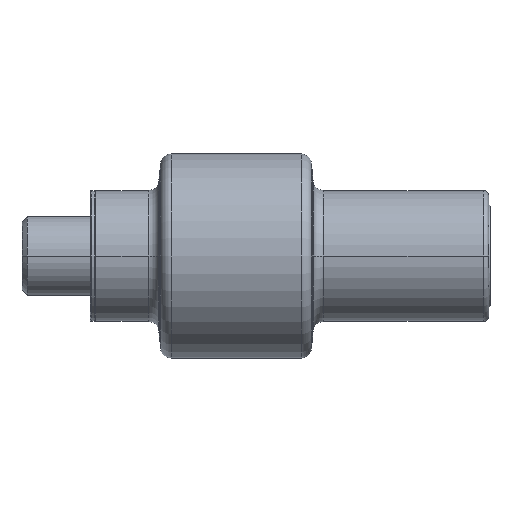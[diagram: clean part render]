
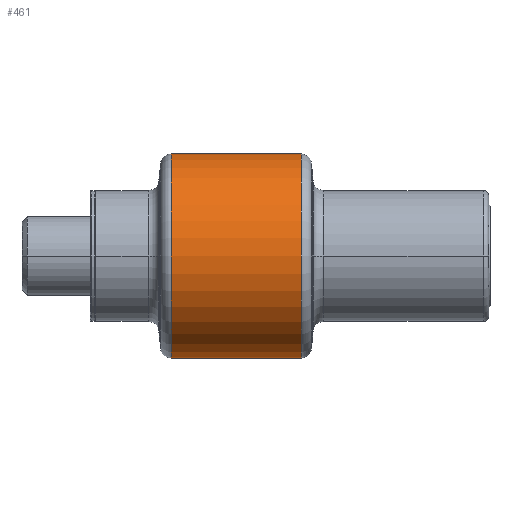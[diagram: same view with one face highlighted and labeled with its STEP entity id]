
A CAD part, left-side view. The second image highlights one B-rep face of the part: STEP entity #461.
In plain terms, the highlighted cylindrical face has radius 39 mm (diameter 78 mm), a partial arc.
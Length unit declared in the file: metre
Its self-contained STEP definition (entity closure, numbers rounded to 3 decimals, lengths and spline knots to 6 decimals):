
#461=ADVANCED_FACE('0:570',(#776),#777,.T.);
#776=FACE_OUTER_BOUND('',#1167,.T.);
#777=CYLINDRICAL_SURFACE('',#1168,0.039);
#1167=EDGE_LOOP('',(#2041,#2042,#2043,#2044));
#1168=AXIS2_PLACEMENT_3D('',#2045,#2046,#2047);
#2041=ORIENTED_EDGE('',*,*,#2745,.T.);
#2042=ORIENTED_EDGE('',*,*,#2766,.T.);
#2043=ORIENTED_EDGE('',*,*,#2747,.T.);
#2044=ORIENTED_EDGE('',*,*,#2769,.T.);
#2045=CARTESIAN_POINT('',(0.0,0.112,0.0));
#2046=DIRECTION('',(0.0,-1.0,0.0));
#2047=DIRECTION('',(0.0,0.0,1.0));
#2745=EDGE_CURVE('',#3208,#3209,#3210,.T.);
#2747=EDGE_CURVE('',#3213,#3211,#3214,.T.);
#2766=EDGE_CURVE('0:588',#3209,#3213,#3241,.T.);
#2769=EDGE_CURVE('0:597',#3211,#3208,#3244,.T.);
#3208=VERTEX_POINT('',#3805);
#3209=VERTEX_POINT('',#3806);
#3210=LINE('',#3807,#3808);
#3211=VERTEX_POINT('',#3809);
#3213=VERTEX_POINT('',#3811);
#3214=LINE('',#3812,#3813);
#3241=CIRCLE('',#4032,0.039);
#3244=CIRCLE('',#4035,0.039);
#3805=CARTESIAN_POINT('',(0.,0.015665,0.039));
#3806=CARTESIAN_POINT('',(0.,0.065335,0.039));
#3807=CARTESIAN_POINT('',(0.,0.0405,0.039));
#3808=VECTOR('',#4899,1.0);
#3809=CARTESIAN_POINT('',(0.,0.015665,-0.039));
#3811=CARTESIAN_POINT('',(0.,0.065335,-0.039));
#3812=CARTESIAN_POINT('',(0.,0.0405,-0.039));
#3813=VECTOR('',#4903,1.0);
#4032=AXIS2_PLACEMENT_3D('',#4934,#4935,#4936);
#4035=AXIS2_PLACEMENT_3D('',#4943,#4944,#4945);
#4899=DIRECTION('',(0.0,1.0,-0.0));
#4903=DIRECTION('',(0.0,-1.0,0.0));
#4934=CARTESIAN_POINT('',(0.0,0.065335,0.0));
#4935=DIRECTION('',(0.0,-1.0,0.0));
#4936=DIRECTION('',(0.0,0.0,-1.0));
#4943=CARTESIAN_POINT('',(0.0,0.015665,0.0));
#4944=DIRECTION('',(0.0,1.0,0.0));
#4945=DIRECTION('',(0.0,0.0,-1.0));
